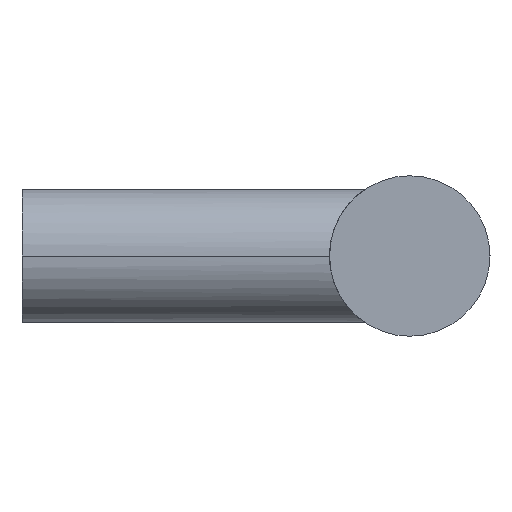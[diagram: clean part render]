
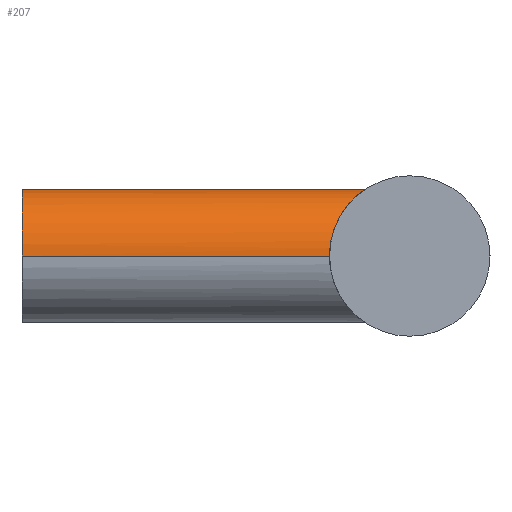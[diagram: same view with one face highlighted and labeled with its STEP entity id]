
A CAD part, left-side view. The second image highlights one B-rep face of the part: STEP entity #207.
In plain terms, the highlighted cylindrical face has radius 5 mm (diameter 10 mm), a partial arc.
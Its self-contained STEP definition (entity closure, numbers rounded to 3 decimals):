
#111 = VERTEX_POINT( '', #273 );
#123 = VERTEX_POINT( '', #287 );
#145 = EDGE_CURVE( '', #147, #189, #314, .T. );
#147 = VERTEX_POINT( '', #316 );
#157 = VERTEX_POINT( '', #327 );
#159 = EDGE_CURVE( '', #189, #111, #329, .T. );
#169 = EDGE_CURVE( '', #123, #147, #339, .T. );
#189 = VERTEX_POINT( '', #362 );
#207 = ADVANCED_FACE( '', ( #383 ), #384, .T. );
#213 = EDGE_CURVE( '', #111, #157, #390, .T. );
#221 = EDGE_CURVE( '', #157, #123, #398, .T. );
#273 = CARTESIAN_POINT( '', ( -5., -23., 0. ) );
#287 = CARTESIAN_POINT( '', ( 5., 0., 0. ) );
#314 = B_SPLINE_CURVE_WITH_KNOTS( '', 3, ( #512, #513, #514, #515, #516, #517, #518, #519, #520, #521, #522, #523, #524, #525, #526, #527, #528, #529 ), .UNSPECIFIED., .F., .F., ( 4, 2, 2, 2, 2, 2, 2, 2, 4 ), ( 24.483, 25.482, 26.481, 27.479, 28.478, 29.52, 30.561, 31.602, 32.643 ), .UNSPECIFIED. );
#316 = CARTESIAN_POINT( '', ( 5., -23., 0. ) );
#327 = CARTESIAN_POINT( '', ( -5., 0., 0. ) );
#329 = B_SPLINE_CURVE_WITH_KNOTS( '', 3, ( #547, #548, #549, #550, #551, #552, #553, #554, #555, #556, #557, #558, #559, #560, #561, #562, #563, #564 ), .UNSPECIFIED., .F., .F., ( 4, 2, 2, 2, 2, 2, 2, 2, 4 ), ( 0., 1.041, 2.083, 3.124, 4.165, 5.164, 6.163, 7.162, 8.161 ), .UNSPECIFIED. );
#339 = LINE( '', #578, #579 );
#362 = CARTESIAN_POINT( '', ( 0., -25.683, 5. ) );
#383 = FACE_OUTER_BOUND( '', #665, .T. );
#384 = CYLINDRICAL_SURFACE( '', #666, 5. );
#390 = LINE( '', #674, #675 );
#398 = CIRCLE( '', #719, 5. );
#512 = CARTESIAN_POINT( '', ( 5., -23., 0. ) );
#513 = CARTESIAN_POINT( '', ( 5., -23., 0.333 ) );
#514 = CARTESIAN_POINT( '', ( 4.966, -23.028, 0.672 ) );
#515 = CARTESIAN_POINT( '', ( 4.83, -23.141, 1.335 ) );
#516 = CARTESIAN_POINT( '', ( 4.728, -23.225, 1.659 ) );
#517 = CARTESIAN_POINT( '', ( 4.467, -23.437, 2.272 ) );
#518 = CARTESIAN_POINT( '', ( 4.306, -23.566, 2.561 ) );
#519 = CARTESIAN_POINT( '', ( 3.946, -23.847, 3.088 ) );
#520 = CARTESIAN_POINT( '', ( 3.745, -24., 3.326 ) );
#521 = CARTESIAN_POINT( '', ( 3.317, -24.311, 3.754 ) );
#522 = CARTESIAN_POINT( '', ( 3.073, -24.483, 3.957 ) );
#523 = CARTESIAN_POINT( '', ( 2.544, -24.825, 4.316 ) );
#524 = CARTESIAN_POINT( '', ( 2.259, -24.995, 4.472 ) );
#525 = CARTESIAN_POINT( '', ( 1.659, -25.301, 4.728 ) );
#526 = CARTESIAN_POINT( '', ( 1.343, -25.436, 4.828 ) );
#527 = CARTESIAN_POINT( '', ( 0.687, -25.627, 4.964 ) );
#528 = CARTESIAN_POINT( '', ( 0.347, -25.683, 5. ) );
#529 = CARTESIAN_POINT( '', ( 0., -25.683, 5. ) );
#547 = CARTESIAN_POINT( '', ( 0., -25.683, 5. ) );
#548 = CARTESIAN_POINT( '', ( -0.347, -25.683, 5. ) );
#549 = CARTESIAN_POINT( '', ( -0.687, -25.627, 4.964 ) );
#550 = CARTESIAN_POINT( '', ( -1.343, -25.436, 4.828 ) );
#551 = CARTESIAN_POINT( '', ( -1.659, -25.301, 4.728 ) );
#552 = CARTESIAN_POINT( '', ( -2.259, -24.995, 4.472 ) );
#553 = CARTESIAN_POINT( '', ( -2.544, -24.825, 4.316 ) );
#554 = CARTESIAN_POINT( '', ( -3.073, -24.483, 3.957 ) );
#555 = CARTESIAN_POINT( '', ( -3.317, -24.311, 3.754 ) );
#556 = CARTESIAN_POINT( '', ( -3.745, -24., 3.326 ) );
#557 = CARTESIAN_POINT( '', ( -3.946, -23.847, 3.088 ) );
#558 = CARTESIAN_POINT( '', ( -4.306, -23.566, 2.561 ) );
#559 = CARTESIAN_POINT( '', ( -4.467, -23.437, 2.272 ) );
#560 = CARTESIAN_POINT( '', ( -4.728, -23.225, 1.659 ) );
#561 = CARTESIAN_POINT( '', ( -4.83, -23.141, 1.335 ) );
#562 = CARTESIAN_POINT( '', ( -4.966, -23.028, 0.672 ) );
#563 = CARTESIAN_POINT( '', ( -5., -23., 0.333 ) );
#564 = CARTESIAN_POINT( '', ( -5., -23., 0. ) );
#578 = CARTESIAN_POINT( '', ( 5., 0., 0. ) );
#579 = VECTOR( '', #867, 1. );
#665 = EDGE_LOOP( '', ( #917, #918, #919, #920, #921 ) );
#666 = AXIS2_PLACEMENT_3D( '', #922, #923, #924 );
#674 = CARTESIAN_POINT( '', ( -5., 0., 0. ) );
#675 = VECTOR( '', #928, 1. );
#719 = AXIS2_PLACEMENT_3D( '', #932, #933, #934 );
#867 = DIRECTION( '', ( 0., -1., 0. ) );
#917 = ORIENTED_EDGE( '', *, *, #169, .F. );
#918 = ORIENTED_EDGE( '', *, *, #221, .F. );
#919 = ORIENTED_EDGE( '', *, *, #213, .F. );
#920 = ORIENTED_EDGE( '', *, *, #159, .F. );
#921 = ORIENTED_EDGE( '', *, *, #145, .F. );
#922 = CARTESIAN_POINT( '', ( 0., 0., 0. ) );
#923 = DIRECTION( '', ( 0., 1., 0. ) );
#924 = DIRECTION( '', ( 1., 0., 0. ) );
#928 = DIRECTION( '', ( 0., 1., 0. ) );
#932 = CARTESIAN_POINT( '', ( 0., 0., 0. ) );
#933 = DIRECTION( '', ( 0., 1., 0. ) );
#934 = DIRECTION( '', ( 1., 0., 0. ) );
